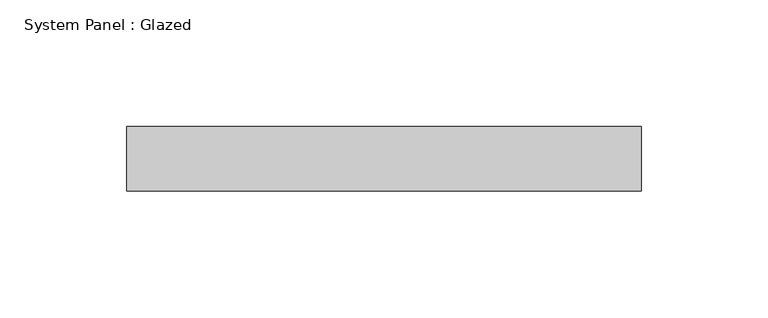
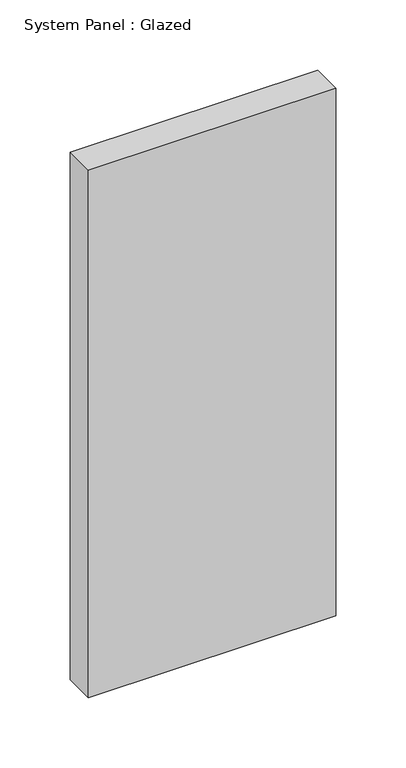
"""IFC4 building model written with IfcOpenShell, lengths in millimetres: plate geometry, System Panel : Glazed."""

from ifc_helpers import new_model, si_unit, origin, origin_with_axes, place, context, project, spatial, polyline, outline, extrude, source, transform, mapped, element, save


def system_panel_glazed_40aa9f18(model_context):
    return source(origin(), model_context, "Body", "SweptSolid", [
        extrude(outline(polyline([(101.347549, -44.45), (-101.347549, -44.45), (-101.347549, -19.05), (101.347549, -19.05), (101.347549, -44.45)])), origin_with_axes(), (0.0, 0.0, 1.0), 457.2),
    ])


if __name__ == "__main__":
    model = new_model("IFC4")
    model_context = context("Model", 3, world=origin())
    ifc_project = project(units=[si_unit("LENGTHUNIT", "METRE", prefix="MILLI")], contexts=[model_context])
    site = spatial("IfcSite", under=ifc_project)
    building = spatial("IfcBuilding", under=site)
    placement = place(None, origin())
    system_panel_glazed_shape = system_panel_glazed_40aa9f18(model_context)
    element("IfcPlate", 1, ObjectType="System Panel : Glazed", at=placement, inside=building, context=model_context, shape_type="MappedRepresentation", body=[
        mapped(system_panel_glazed_shape, transform((0.0, 0.0, 0.0), x_axis=(1.0, 0.0, 0.0), y_axis=(0.0, 1.0, 0.0), z_axis=(0.0, 0.0, 1.0))),
    ])
    save(model, "model.ifc")
